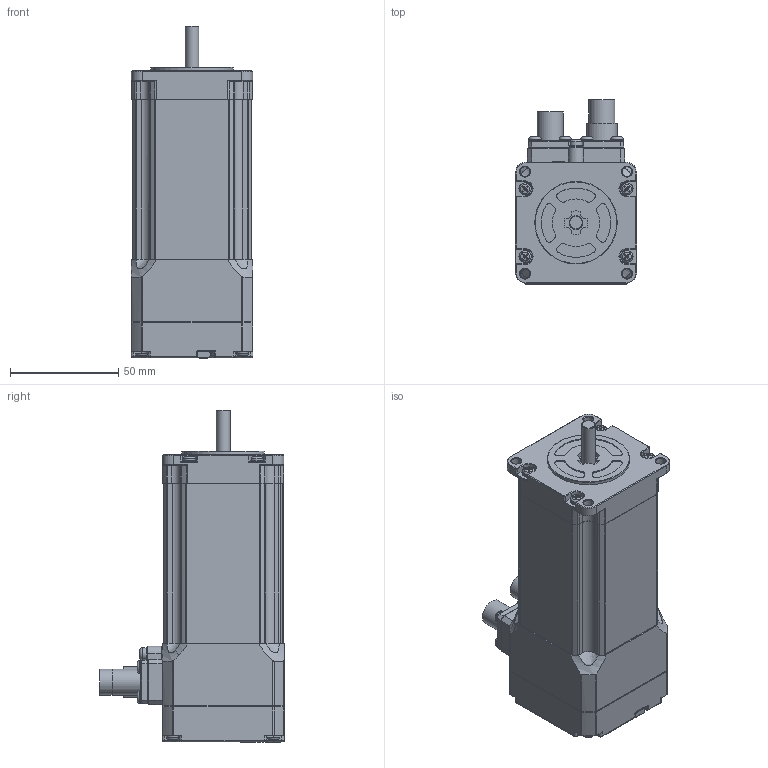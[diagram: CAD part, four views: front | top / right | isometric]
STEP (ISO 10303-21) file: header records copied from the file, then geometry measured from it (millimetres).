
FILE_DESCRIPTION(/* description */ (''),/* implementation_level */ '2;1');
FILE_NAME(/* name */ '0000038872_AS2023-0H23_20261006.stp',/* time_stamp */ '2026-10-06T09:03:15+02:00',/* author */ ('JoernGe'),/* organization */ (''),/* preprocessor_version */ 'ST-DEVELOPER v20.1',/* originating_system */ 'Autodesk Inventor 2026',/* authorisation */ '');
FILE_SCHEMA (('AUTOMOTIVE_DESIGN { 1 0 10303 214 3 1 1 }'));
Length unit declared in the file: millimetre
Products named in the file (1): 0000038872_AS2023-0H23
Bounding box: 56.3 x 85.31 x 153.41 mm (x, y, z)
Volume: 399776.5 mm3; surface area: 41285.1 mm2
Topology: 1 solids, 2 shells, 1042 faces, 2696 edges, 1729 vertices
Faces by surface type: plane 477, cylinder 362, cone 91, torus 55, bspline 41, sphere 16
Full cylindrical faces by diameter (mm): 0.8 x1, 1 x8, 1.2 x4, 4.5 x4, 5.1 x1, 5.5 x6, 5.7 x12, 6 x1, 6.35 x1, 7 x1, 7.6 x1, 9.4 x2, 10.4 x1, 12 x2, 14 x1, 38.1 x1
Entity records: 36255 total; most frequent: CARTESIAN_POINT 9351, DIRECTION 5518, ORIENTED_EDGE 5378, EDGE_CURVE 2689, AXIS2_PLACEMENT_3D 2058, VERTEX_POINT 1729, LINE 1402, VECTOR 1402
